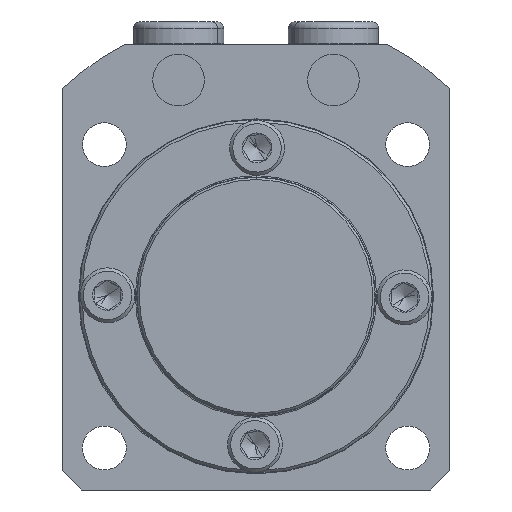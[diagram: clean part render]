
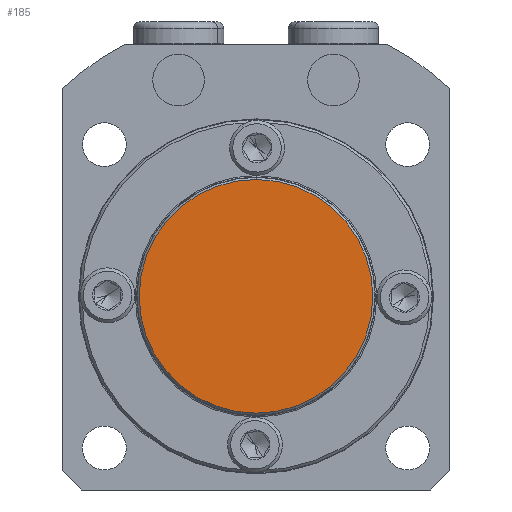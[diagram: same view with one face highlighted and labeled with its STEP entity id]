
A CAD part, front view. The second image highlights one B-rep face of the part: STEP entity #185.
In plain terms, the highlighted planar face has unit normal (0, -1, 0).
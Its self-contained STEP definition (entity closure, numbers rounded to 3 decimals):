
#185 = ADVANCED_FACE ( 'NONE', ( #3272 ), #3273, .T. ) ;
#199 = EDGE_CURVE ( 'NONE', #2592, #2670, #2908, .T. ) ;
#697 = CIRCLE ( 'NONE', #699, 18.1 ) ;
#699 = AXIS2_PLACEMENT_3D ( 'NONE', #2134, #2135, #2136 ) ;
#2134 = CARTESIAN_POINT ( 'NONE',  ( 0., -10., 0. ) ) ;
#2135 = DIRECTION ( 'NONE',  ( 0., -1., 0. ) ) ;
#2136 = DIRECTION ( 'NONE',  ( 0., 0., -1. ) ) ;
#2402 = EDGE_LOOP ( 'NONE', ( #2484, #2485 ) ) ;
#2484 = ORIENTED_EDGE ( 'NONE', *, *, #199, .T. ) ;
#2485 = ORIENTED_EDGE ( 'NONE', *, *, #2990, .T. ) ;
#2592 = VERTEX_POINT ( 'NONE', #4574 ) ;
#2670 = VERTEX_POINT ( 'NONE', #4652 ) ;
#2852 = AXIS2_PLACEMENT_3D ( 'NONE', #3330, #3331, #3332 ) ;
#2875 = AXIS2_PLACEMENT_3D ( 'NONE', #3264, #3276, #3277 ) ;
#2908 = CIRCLE ( 'NONE', #2852, 18.1 ) ;
#2990 = EDGE_CURVE ( 'NONE', #2670, #2592, #697, .T. ) ;
#3264 = CARTESIAN_POINT ( 'NONE',  ( 0., -10., 0. ) ) ;
#3272 = FACE_OUTER_BOUND ( 'NONE', #2402, .T. ) ;
#3273 = PLANE ( 'NONE',  #2875 ) ;
#3276 = DIRECTION ( 'NONE',  ( 0., -1., 0. ) ) ;
#3277 = DIRECTION ( 'NONE',  ( 0., 0., -1. ) ) ;
#3330 = CARTESIAN_POINT ( 'NONE',  ( 0., -10., 0. ) ) ;
#3331 = DIRECTION ( 'NONE',  ( 0., -1., 0. ) ) ;
#3332 = DIRECTION ( 'NONE',  ( 0., 0., -1. ) ) ;
#4574 = CARTESIAN_POINT ( 'NONE',  ( 0., -10., 18.1 ) ) ;
#4652 = CARTESIAN_POINT ( 'NONE',  ( 0., -10., -18.1 ) ) ;
